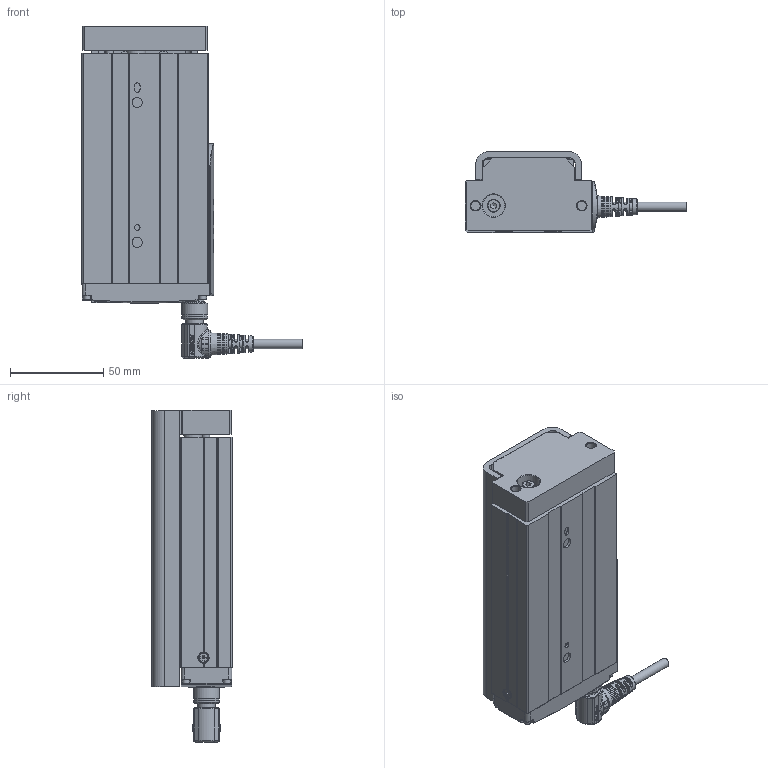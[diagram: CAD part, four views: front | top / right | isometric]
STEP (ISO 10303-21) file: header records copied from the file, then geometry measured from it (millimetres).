
FILE_DESCRIPTION(/* description */ ('STEP AP203'),/* implementation_level */ '2;1');
FILE_NAME(/* name */ 'D:\暫\2025.02.06 CSG 3D\CSG25\CSG25-S75-WL.stp',/* time_stamp */ '2025-02-08T10:02:42+08:00',/* author */ ('T10033'),/* organization */ (''),/* preprocessor_version */ 'ST-DEVELOPER v18.1',/* originating_system */ 'Autodesk Inventor 2020',/* authorisation */ '');
FILE_SCHEMA (('CONFIG_CONTROL_DESIGN'));
Products named in the file (18): CSG25-50行程-180接頭-完整組合; 22035-000061(G4ªo¯]); countersunk flat head cross recess screw_iso_ISO 7046-1 - M2.5 x 4 - 
Z - 4N; ©T©wªO-·¥­­¾×ª
O4-M2¤ú; socket head cap screw_iso_ISO 4762 M2.5 x 6 - 6N; socket head cap screw_iso_ISO 4762 M2.5 x 8 - 8N; ¶ì½¦ºÝ»-L¼Ë¦¡
(TOYO); socket head cap screw_iso_ISO 4762 M2 x 12 - 12N; M12 -14PIN  ªOºÝ-²Ä¤@ºØ
³W®æ; CSG25-50¥»Åé3ª©-ªo¤Õ
½Õ¾ã¨¤«×; CSG25-Carriage-newtype; Solid1-2; M12-14PIN 線端90度接頭-05中繼線; 12003-000221-­×§ï; 22024-000496; CNS 3932 - M 4 x 0.7 x 12; socket head cap screw_iso_ISO 4762 M2.5 x 5 - 5N; CNS 4558 - M5 x 0.8 x 12
Assembly tree (29 placements, depth 2):
  CSG25-50行程-180接頭-完整組合
    22035-000061(G4ªo¯])
    socket head cap screw_iso_ISO 4762 M2.5 x 8 - 8N  x8
    countersunk flat head cross recess screw_iso_ISO 7046-1 - M2.5 x 4 - 
Z - 4N
    ©T©wªO-·¥­­¾×ª
O4-M2¤ú
    socket head cap screw_iso_ISO 4762 M2.5 x 6 - 6N  x2
    ¶ì½¦ºÝ»-L¼Ë¦¡
(TOYO)
    socket head cap screw_iso_ISO 4762 M2 x 12 - 12N  x4
    M12 -14PIN  ªOºÝ-²Ä¤@ºØ
³W®æ
    CSG25-50¥»Åé3ª©-ªo¤Õ
½Õ¾ã¨¤«×
    CSG25-Carriage-newtype
    Solid1-2
    M12-14PIN 線端90度接頭-05中繼線
    12003-000221-­×§ï
    22024-000496
    CNS 3932 - M 4 x 0.7 x 12
    socket head cap screw_iso_ISO 4762 M2.5 x 5 - 5N
    CNS 4558 - M5 x 0.8 x 12  x2
Bounding box: 118.75 x 43.5 x 178 mm (x, y, z)
Volume: 338566.9 mm3; surface area: 89823 mm2
Topology: 43 solids, 53 shells, 2988 faces, 8205 edges, 5450 vertices
Faces by surface type: plane 1432, bspline 647, cylinder 495, cone 282, torus 125, sphere 7
Full cylindrical faces by diameter (mm): 0.6 x14, 0.65 x14, 1 x14, 1.6 x4, 2 x4, 2.05 x3, 2.5 x13, 2.9 x2, 3 x3, 3.8 x4, 4 x1, 4.134 x8, 4.5 x11, 4.7 x1, 4.95 x1, 5 x6, 5.2 x1, 5.3 x2, 5.4 x4, 5.5 x4, 6 x3, 7 x1, 8 x1, 8.9 x1, 9 x12, 9.5 x2, 9.6 x1, 10 x6, 10.4 x2, 10.5 x2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
Entity records: 115305 total; most frequent: CARTESIAN_POINT 44544, ORIENTED_EDGE 15129, DIRECTION 13277, EDGE_CURVE 7583, VERTEX_POINT 5063, AXIS2_PLACEMENT_3D 4641, LINE 3995, VECTOR 3995
